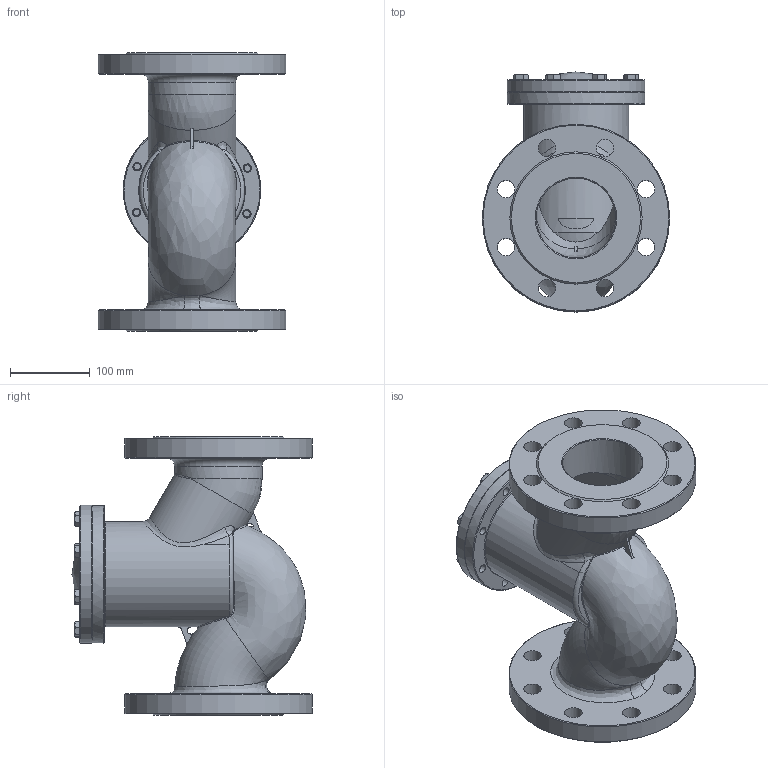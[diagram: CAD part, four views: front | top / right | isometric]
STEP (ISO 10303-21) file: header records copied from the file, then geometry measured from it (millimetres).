
FILE_DESCRIPTION(('STEP AP214'), '1');
FILE_NAME('VCR3131-F 孰囡囗 钺疣蝽 DN.ru 捏100 畜40', '', ('UNSPECIFIED'), ('UNSPECIFIED'), 'C3D Converter', 'C3D Toolkit', '');
FILE_SCHEMA(('AUTOMOTIVE_DESIGN { 1 0 10303 214 3 1 1}'));
Length unit declared in the file: millimetre
Products named in the file (1): VCR3131-F
Bounding box: 235 x 301.1 x 350 mm (x, y, z)
Volume: 5115918.3 mm3; surface area: 578522.4 mm2
Topology: 1 solids, 1 shells, 398 faces, 945 edges, 591 vertices
Faces by surface type: plane 198, cylinder 72, cone 64, bspline 53, torus 10, sphere 1
Full cylindrical faces by diameter (mm): 10 x8, 10.639 x16, 15 x1, 16 x8, 22 x16, 100 x3, 110 x1, 132.05 x1, 172.633 x2, 235 x2
Entity records: 24221 total; most frequent: CARTESIAN_POINT 14037, ORIENTED_EDGE 1722, DIRECTION 1595, EDGE_CURVE 861, AXIS2_PLACEMENT_3D 660, VERTEX_POINT 589, EDGE_LOOP 572, FACE_BOUND 462
